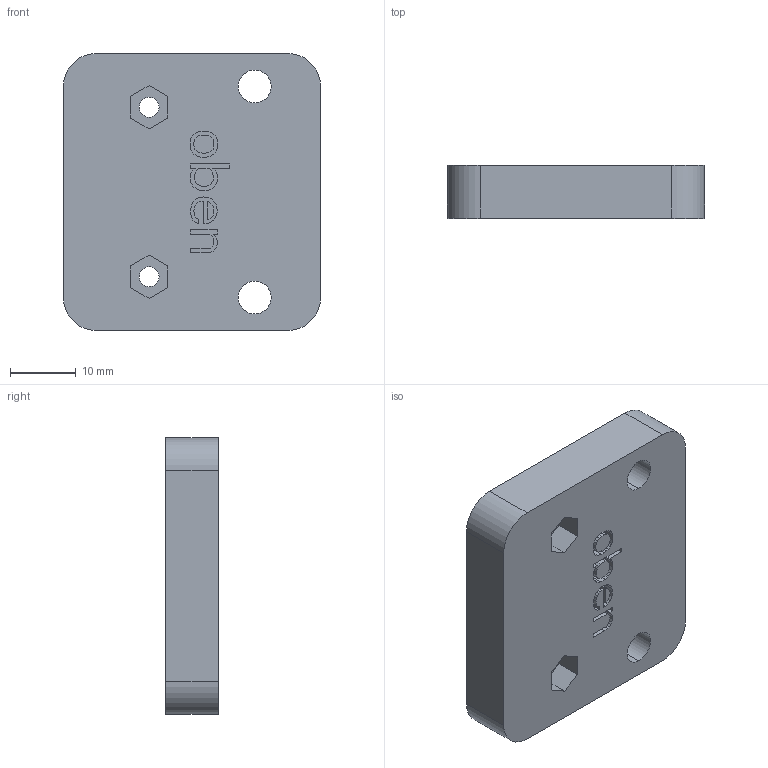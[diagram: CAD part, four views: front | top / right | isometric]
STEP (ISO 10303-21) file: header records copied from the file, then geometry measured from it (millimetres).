
FILE_DESCRIPTION((''),'2;1');
FILE_NAME('0000187300','2024-04-03T11:40:42',('Wyndorps'),(''),'CREO PARAMETRIC BY PTC INC, 2022484','CREO PARAMETRIC BY PTC INC, 2022484','');
FILE_SCHEMA(('CONFIG_CONTROL_DESIGN'));
Length unit declared in the file: millimetre
Products named in the file (1): 0000187300
Bounding box: 39 x 8 x 42 mm (x, y, z)
Volume: 12278.2 mm3; surface area: 5039.8 mm2
Topology: 1 solids, 1 shells, 192 faces, 543 edges, 362 vertices
Faces by surface type: plane 180, cylinder 12
Entity records: 6165 total; most frequent: CARTESIAN_POINT 1097, ORIENTED_EDGE 1086, DIRECTION 951, EDGE_CURVE 543, VECTOR 519, LINE 519, VERTEX_POINT 362, AXIS2_PLACEMENT_3D 216
